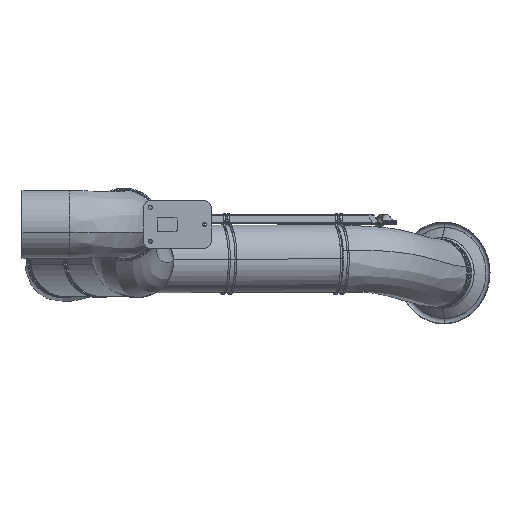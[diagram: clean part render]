
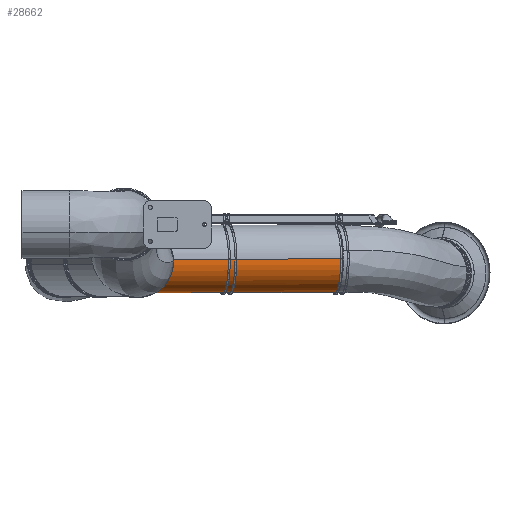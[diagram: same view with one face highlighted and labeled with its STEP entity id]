
A CAD part, left-side view. The second image highlights one B-rep face of the part: STEP entity #28662.
In plain terms, the highlighted free-form (B-spline) face has degree [3, 3] with [7, 6] control points.
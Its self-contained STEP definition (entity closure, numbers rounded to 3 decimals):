
#27415=CARTESIAN_POINT('',(1471.299,-468.151,
-101.223));
#27416=CARTESIAN_POINT('',(1451.946,-395.922,
-101.278));
#27417=CARTESIAN_POINT('',(1413.238,-251.462,
-101.389));
#27418=CARTESIAN_POINT('',(1355.176,-34.773,
-101.556));
#27419=CARTESIAN_POINT('',(1316.468,109.687,
-101.667));
#27420=CARTESIAN_POINT('',(1297.114,181.917,
-101.723));
#27425=CARTESIAN_POINT('',(1374.707,-494.033,-101.5));
#27426=DIRECTION('',(0.259,-0.966,0.001));
#27427=DIRECTION('',(-0.966,-0.259,-0.003));
#27428=AXIS2_PLACEMENT_3D('',#27425,#27426,#27427);
#27433=CARTESIAN_POINT('',(1374.707,-494.033,-101.5));
#27434=DIRECTION('',(0.259,-0.966,0.001));
#27435=DIRECTION('',(0.934,0.25,-0.254));
#27436=AXIS2_PLACEMENT_3D('',#27433,#27434,#27435);
#27457=CARTESIAN_POINT('',(1278.115,-519.915,
-101.777));
#27458=CARTESIAN_POINT('',(1258.761,-447.686,
-101.833));
#27459=CARTESIAN_POINT('',(1220.053,-303.226,
-101.944));
#27460=CARTESIAN_POINT('',(1161.992,-86.537,
-102.111));
#27461=CARTESIAN_POINT('',(1123.284,57.923,
-102.222));
#27462=CARTESIAN_POINT('',(1103.93,130.153,
-102.277));
#27968=CARTESIAN_POINT('',(1200.522,156.035,-102.));
#27969=DIRECTION('',(-0.259,0.966,-0.001));
#27970=DIRECTION('',(0.966,0.259,0.003));
#27971=AXIS2_PLACEMENT_3D('',#27968,#27969,#27970);
#28567=CARTESIAN_POINT('',(1297.114,181.917,
-101.723));
#28568=CARTESIAN_POINT('',(1103.93,130.153,
-102.277));
#28569=VERTEX_POINT('',#28567);
#28570=VERTEX_POINT('',#28568);
#28593=VERTEX_POINT('',#27415);
#28594=VERTEX_POINT('',#27457);
#28603=CARTESIAN_POINT('',(1468.138,-469.018,
-126.896));
#28604=VERTEX_POINT('',#28603);
#28607=CARTESIAN_POINT('',(1474.574,-481.204,
-94.934));
#28608=CARTESIAN_POINT('',(1473.413,-476.87,
-94.938));
#28609=CARTESIAN_POINT('',(1414.19,-255.847,
-95.108));
#28610=CARTESIAN_POINT('',(1353.806,-30.49,
-95.281));
#28611=CARTESIAN_POINT('',(1294.583,190.533,
-95.451));
#28612=CARTESIAN_POINT('',(1293.422,194.867,
-95.454));
#28613=CARTESIAN_POINT('',(1478.483,-480.204,
-156.342));
#28614=CARTESIAN_POINT('',(1477.322,-475.87,
-156.345));
#28615=CARTESIAN_POINT('',(1418.099,-254.847,
-156.515));
#28616=CARTESIAN_POINT('',(1357.715,-29.49,
-156.688));
#28617=CARTESIAN_POINT('',(1298.492,191.533,
-156.858));
#28618=CARTESIAN_POINT('',(1297.331,195.867,
-156.862));
#28619=CARTESIAN_POINT('',(1437.921,-491.107,
-201.319));
#28620=CARTESIAN_POINT('',(1436.759,-486.773,
-201.322));
#28621=CARTESIAN_POINT('',(1377.536,-265.75,
-201.492));
#28622=CARTESIAN_POINT('',(1317.152,-40.393,
-201.666));
#28623=CARTESIAN_POINT('',(1257.929,180.63,
-201.836));
#28624=CARTESIAN_POINT('',(1256.768,184.964,
-201.839));
#28625=CARTESIAN_POINT('',(1378.478,-507.035,
-201.49));
#28626=CARTESIAN_POINT('',(1377.317,-502.701,
-201.493));
#28627=CARTESIAN_POINT('',(1318.094,-281.678,
-201.663));
#28628=CARTESIAN_POINT('',(1257.71,-56.321,
-201.836));
#28629=CARTESIAN_POINT('',(1198.487,164.702,
-202.006));
#28630=CARTESIAN_POINT('',(1197.325,169.036,
-202.01));
#28631=CARTESIAN_POINT('',(1319.035,-522.962,
-201.66));
#28632=CARTESIAN_POINT('',(1317.874,-518.629,
-201.664));
#28633=CARTESIAN_POINT('',(1258.651,-297.606,
-201.834));
#28634=CARTESIAN_POINT('',(1198.267,-72.249,
-202.007));
#28635=CARTESIAN_POINT('',(1139.044,148.775,
-202.177));
#28636=CARTESIAN_POINT('',(1137.883,153.108,
-202.18));
#28637=CARTESIAN_POINT('',(1278.215,-533.866,
-156.917));
#28638=CARTESIAN_POINT('',(1277.054,-529.532,
-156.92));
#28639=CARTESIAN_POINT('',(1217.831,-308.509,
-157.09));
#28640=CARTESIAN_POINT('',(1157.447,-83.152,
-157.263));
#28641=CARTESIAN_POINT('',(1098.224,137.871,
-157.433));
#28642=CARTESIAN_POINT('',(1097.063,142.205,
-157.437));
#28643=CARTESIAN_POINT('',(1281.771,-532.866,
-95.488));
#28644=CARTESIAN_POINT('',(1280.61,-528.532,
-95.491));
#28645=CARTESIAN_POINT('',(1221.387,-307.509,
-95.661));
#28646=CARTESIAN_POINT('',(1161.003,-82.152,
-95.834));
#28647=CARTESIAN_POINT('',(1101.78,138.871,
-96.004));
#28648=CARTESIAN_POINT('',(1100.619,143.205,
-96.008));
#28649=(BOUNDED_SURFACE()B_SPLINE_SURFACE(3,3,((#28607,#28608,#28609,#28610,
#28611,#28612),(#28613,#28614,#28615,#28616,#28617,#28618),(#28619,#28620,
#28621,#28622,#28623,#28624),(#28625,#28626,#28627,#28628,#28629,#28630),
(#28631,#28632,#28633,#28634,#28635,#28636),(#28637,#28638,#28639,#28640,#28641,
#28642),(#28643,#28644,#28645,#28646,#28647,#28648)),.UNSPECIFIED.,.F.,.F.,.F.)B_SPLINE_SURFACE_WITH_KNOTS((4,3,4),(4,1,1,4),(0.,1.,2.),
(-0.02,0.,1.,1.02),.UNSPECIFIED.)GEOMETRIC_REPRESENTATION_ITEM()RATIONAL_B_SPLINE_SURFACE(((1.187,1.187,
1.187,1.187,1.187,1.187),(
0.938,0.938,0.938,0.938,
0.938,0.938),(0.938,0.938,
0.938,0.938,0.938,0.938),(
1.187,1.187,1.187,1.187,
1.187,1.187),(0.938,0.938,
0.938,0.938,0.938,0.938),(
0.938,0.938,0.938,0.938,
0.938,0.938),(1.187,1.187,
1.187,1.187,1.187,1.187)))REPRESENTATION_ITEM('')SURFACE());
#28651=ORIENTED_EDGE('',*,*,#28650,.T.);
#28653=ORIENTED_EDGE('',*,*,#28652,.T.);
#28655=ORIENTED_EDGE('',*,*,#28654,.F.);
#28657=ORIENTED_EDGE('',*,*,#28656,.T.);
#28659=ORIENTED_EDGE('',*,*,#28658,.T.);
#28660=EDGE_LOOP('',(#28651,#28653,#28655,#28657,#28659));
#28661=FACE_OUTER_BOUND('',#28660,.F.);
#27421=B_SPLINE_CURVE_WITH_KNOTS('',3,(#27415,#27416,#27417,#27418,#27419,
#27420),.UNSPECIFIED.,.F.,.F.,(4,1,1,4),(0.,0.333,
0.667,1.),.UNSPECIFIED.);
#27429=CIRCLE('',#27428,100.);
#27437=CIRCLE('',#27436,100.);
#27463=B_SPLINE_CURVE_WITH_KNOTS('',3,(#27457,#27458,#27459,#27460,#27461,
#27462),.UNSPECIFIED.,.F.,.F.,(4,1,1,4),(0.,0.333,
0.667,1.),.UNSPECIFIED.);
#27972=CIRCLE('',#27971,100.);
#28650=EDGE_CURVE('',#28593,#28569,#27421,.T.);
#28652=EDGE_CURVE('',#28569,#28570,#27972,.T.);
#28654=EDGE_CURVE('',#28594,#28570,#27463,.T.);
#28656=EDGE_CURVE('',#28594,#28604,#27429,.T.);
#28658=EDGE_CURVE('',#28604,#28593,#27437,.T.);
#28662=ADVANCED_FACE('',(#28661),#28649,.T.);
